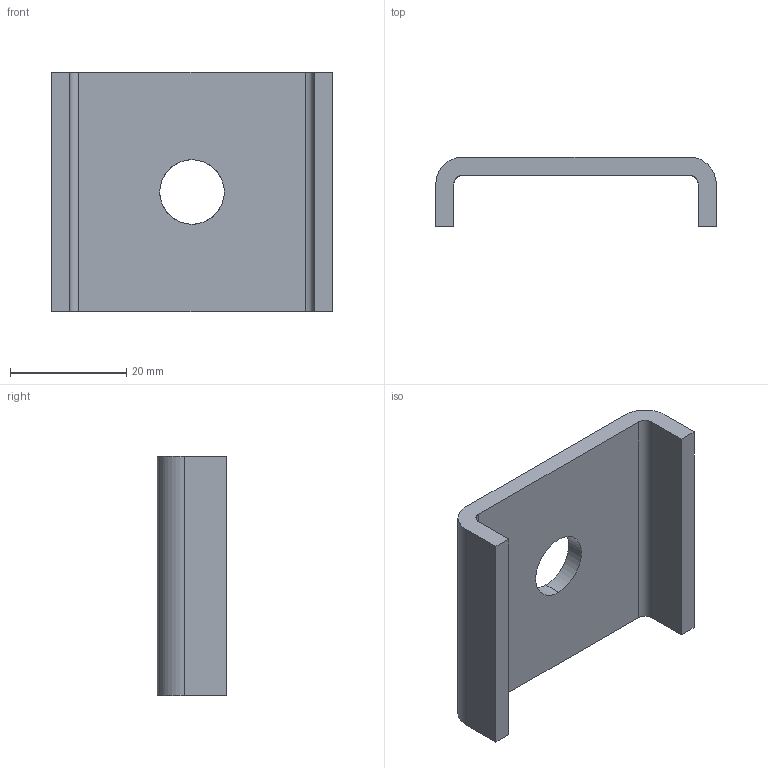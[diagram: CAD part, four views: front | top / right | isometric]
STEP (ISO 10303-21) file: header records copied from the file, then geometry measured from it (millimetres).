
FILE_DESCRIPTION(('TurboCAD Mac Pro'),'Build 980');
FILE_NAME('P2800-37.stp',' ',(''),(''),'ACIS Interop','IMSI','TurboCAD Mac Pro BY IMSI, INCORPORATED');
FILE_SCHEMA(('automotive_design'));
Length unit declared in the file: inch
Products named in the file (1): 1
Bounding box: 48.28 x 11.98 x 41.27 mm (x, y, z)
Volume: 7824.7 mm3; surface area: 5795.2 mm2
Topology: 1 solids, 1 shells, 18 faces, 48 edges, 32 vertices
Faces by surface type: plane 10, bspline 8
Entity records: 772 total; most frequent: CARTESIAN_POINT 203, ORIENTED_EDGE 96, DIRECTION 54, EDGE_CURVE 48, VERTEX_POINT 32, LINE 32, VECTOR 32, EDGE_LOOP 20
